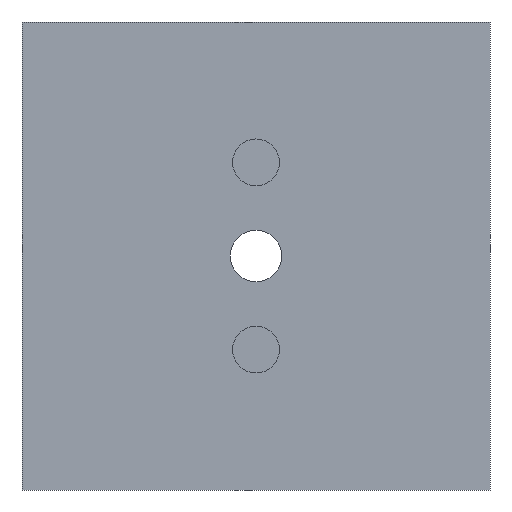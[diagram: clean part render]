
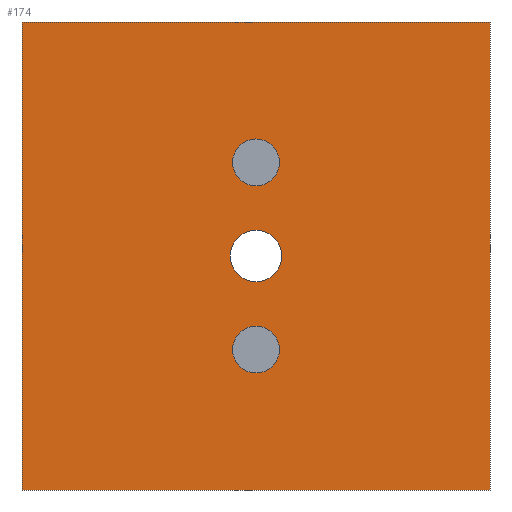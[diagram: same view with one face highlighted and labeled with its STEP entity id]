
A CAD part, front view. The second image highlights one B-rep face of the part: STEP entity #174.
In plain terms, the highlighted planar face has unit normal (0, -1, 0).
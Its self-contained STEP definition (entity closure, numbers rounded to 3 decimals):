
#15=FACE_BOUND('',#44,.T.);
#16=FACE_BOUND('',#45,.T.);
#17=FACE_BOUND('',#46,.T.);
#21=PLANE('',#205);
#32=FACE_OUTER_BOUND('',#43,.T.);
#43=EDGE_LOOP('',(#138,#139,#140,#141));
#44=EDGE_LOOP('',(#142));
#45=EDGE_LOOP('',(#143));
#46=EDGE_LOOP('',(#144));
#56=LINE('',#286,#71);
#57=LINE('',#288,#72);
#58=LINE('',#290,#73);
#59=LINE('',#291,#74);
#71=VECTOR('',#240,10.);
#72=VECTOR('',#241,10.);
#73=VECTOR('',#242,10.);
#74=VECTOR('',#243,10.);
#84=CIRCLE('',#196,0.5);
#86=CIRCLE('',#200,0.5);
#87=CIRCLE('',#203,0.55);
#90=VERTEX_POINT('',#266);
#92=VERTEX_POINT('',#273);
#93=VERTEX_POINT('',#278);
#95=VERTEX_POINT('',#284);
#96=VERTEX_POINT('',#285);
#97=VERTEX_POINT('',#287);
#98=VERTEX_POINT('',#289);
#105=EDGE_CURVE('',#90,#90,#84,.T.);
#108=EDGE_CURVE('',#92,#92,#86,.T.);
#109=EDGE_CURVE('',#93,#93,#87,.T.);
#112=EDGE_CURVE('',#95,#96,#56,.T.);
#113=EDGE_CURVE('',#96,#97,#57,.T.);
#114=EDGE_CURVE('',#98,#97,#58,.T.);
#115=EDGE_CURVE('',#95,#98,#59,.T.);
#138=ORIENTED_EDGE('',*,*,#112,.T.);
#139=ORIENTED_EDGE('',*,*,#113,.T.);
#140=ORIENTED_EDGE('',*,*,#114,.F.);
#141=ORIENTED_EDGE('',*,*,#115,.F.);
#142=ORIENTED_EDGE('',*,*,#105,.T.);
#143=ORIENTED_EDGE('',*,*,#108,.T.);
#144=ORIENTED_EDGE('',*,*,#109,.T.);
#174=ADVANCED_FACE('',(#32,#15,#16,#17),#21,.T.);
#196=AXIS2_PLACEMENT_3D('',#268,#218,#219);
#200=AXIS2_PLACEMENT_3D('',#275,#227,#228);
#203=AXIS2_PLACEMENT_3D('',#279,#233,#234);
#205=AXIS2_PLACEMENT_3D('',#283,#238,#239);
#218=DIRECTION('center_axis',(0.,1.,0.));
#219=DIRECTION('ref_axis',(1.,0.,0.));
#227=DIRECTION('center_axis',(0.,1.,0.));
#228=DIRECTION('ref_axis',(1.,0.,0.));
#233=DIRECTION('center_axis',(0.,1.,0.));
#234=DIRECTION('ref_axis',(1.,0.,0.));
#238=DIRECTION('center_axis',(0.,-1.,0.));
#239=DIRECTION('ref_axis',(1.,0.,0.));
#240=DIRECTION('',(1.,0.,0.));
#241=DIRECTION('',(0.,0.,1.));
#242=DIRECTION('',(1.,0.,0.));
#243=DIRECTION('',(0.,0.,1.));
#266=CARTESIAN_POINT('',(-0.5,-5.25,3.));
#268=CARTESIAN_POINT('Origin',(0.,-5.25,3.));
#273=CARTESIAN_POINT('',(-0.5,-5.25,7.));
#275=CARTESIAN_POINT('Origin',(0.,-5.25,7.));
#278=CARTESIAN_POINT('',(-0.55,-5.25,5.));
#279=CARTESIAN_POINT('Origin',(0.,-5.25,5.));
#283=CARTESIAN_POINT('Origin',(-5.,-5.25,0.));
#284=CARTESIAN_POINT('',(-5.,-5.25,0.));
#285=CARTESIAN_POINT('',(5.,-5.25,0.));
#286=CARTESIAN_POINT('',(-5.,-5.25,0.));
#287=CARTESIAN_POINT('',(5.,-5.25,10.));
#288=CARTESIAN_POINT('',(5.,-5.25,0.));
#289=CARTESIAN_POINT('',(-5.,-5.25,10.));
#290=CARTESIAN_POINT('',(-5.,-5.25,10.));
#291=CARTESIAN_POINT('',(-5.,-5.25,0.));
